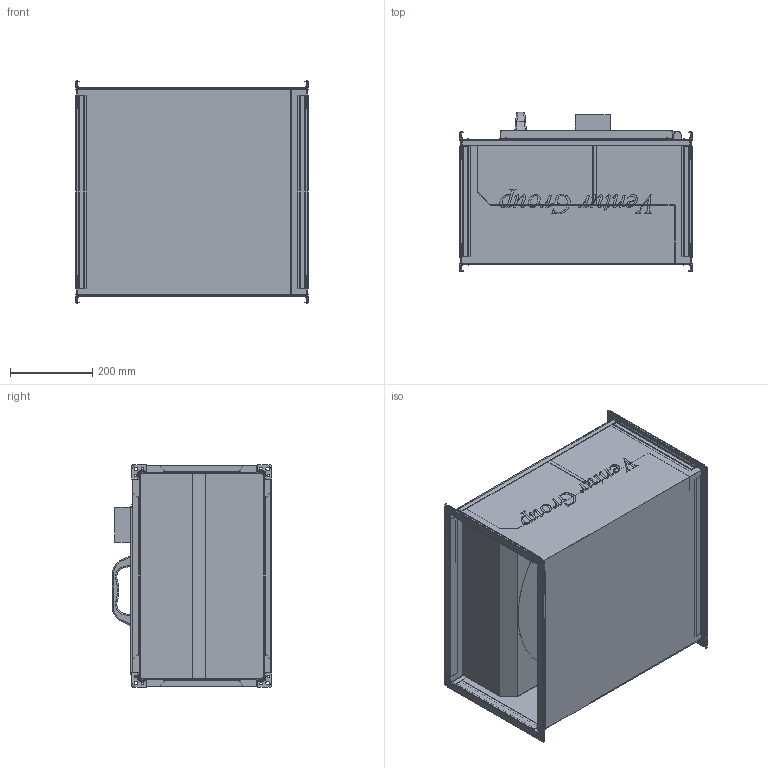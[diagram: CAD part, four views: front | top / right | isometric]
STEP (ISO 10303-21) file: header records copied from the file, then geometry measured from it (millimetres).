
FILE_DESCRIPTION(/* description */ (''),/* implementation_level */ '2;1');
FILE_NAME(/* name */ 'C:\Users\M.Janczarek\Documents\Modele uproszczone\IBF\IBF4_315S 41010052\IBF4_315S 41010052\IBF4_315S 41010052.stp',/* time_stamp */ '2018-03-22T15:16:31+01:00',/* author */ ('M.Janczarek'),/* organization */ (''),/* preprocessor_version */ 'ST-DEVELOPER v16.5',/* originating_system */ 'Autodesk Inventor 2017',/* authorisation */ '');
FILE_SCHEMA (('AUTOMOTIVE_DESIGN { 1 0 10303 214 3 1 1 }'));
Products named in the file (1): IBF4_315S 41010052
Bounding box: 564.6 x 387.49 x 539.97 mm (x, y, z)
Volume: 12211558 mm3; surface area: 3771355.7 mm2
Topology: 1 solids, 1 shells, 1759 faces, 5084 edges, 3264 vertices
Faces by surface type: plane 847, cylinder 476, bspline 328, torus 64, cone 28, sphere 16
Full cylindrical faces by diameter (mm): 6 x16, 9 x8, 200 x1, 290.9 x1
Entity records: 64770 total; most frequent: CARTESIAN_POINT 18408, ORIENTED_EDGE 10100, DIRECTION 8408, EDGE_CURVE 5050, VERTEX_POINT 3272, LINE 3228, VECTOR 3228, AXIS2_PLACEMENT_3D 2590
